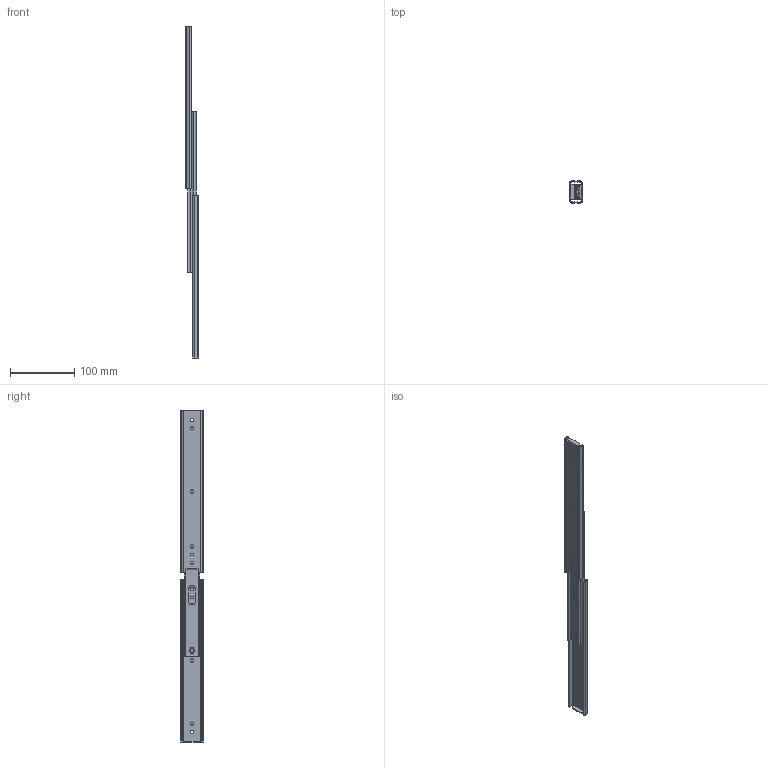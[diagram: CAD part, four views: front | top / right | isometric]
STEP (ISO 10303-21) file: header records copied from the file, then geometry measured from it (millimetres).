
FILE_DESCRIPTION (( 'STEP AP214' ), '1' );
FILE_NAME ('3560-250-Open.STEP', '2024-09-02T07:27:50', ( '' ), ( '' ), 'SwSTEP 2.0', 'SolidWorks 2024', '' );
FILE_SCHEMA (( 'AUTOMOTIVE_DESIGN' ));
Length unit declared in the file: millimetre
Products named in the file (3): 3560-250-Open; 26065P1-10''''_mir_Part4; 26065P3-10''''_mir_Part3
Assembly tree (4 placements, depth 2):
  3560-250-Open
    26065P3-10''''_mir_Part3  x2
    26065P1-10''''_mir_Part4  x2
Bounding box: 19.6 x 35.27 x 518 mm (x, y, z)
Surface area: 82898.4 mm2 (no closed solid volume)
Topology: 0 solids, 4 shells, 290 faces, 834 edges, 552 vertices
Faces by surface type: cylinder 154, plane 136
Entity records: 4933 total; most frequent: DIRECTION 873, CARTESIAN_POINT 863, ORIENTED_EDGE 834, EDGE_CURVE 417, AXIS2_PLACEMENT_3D 306, VERTEX_POINT 276, VECTOR 261, LINE 261
